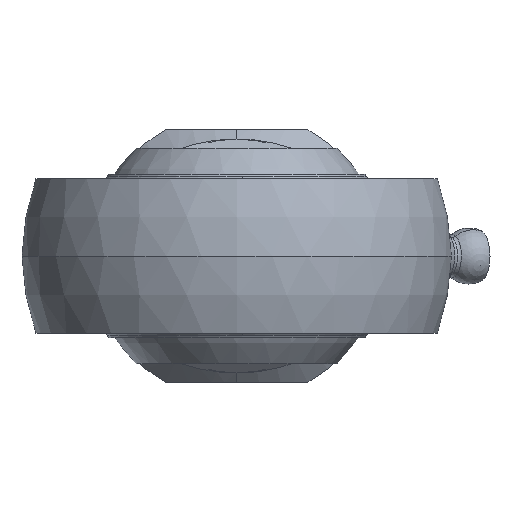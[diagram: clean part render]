
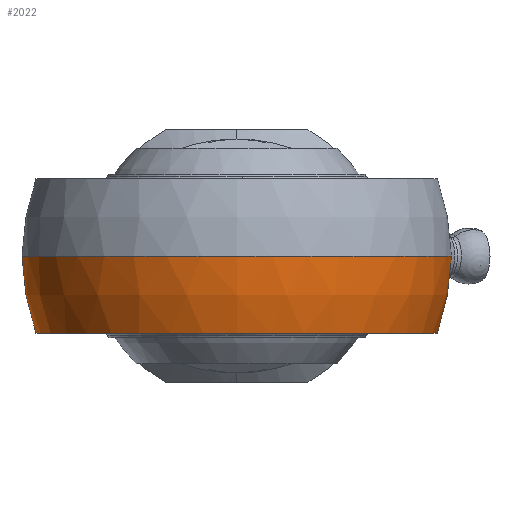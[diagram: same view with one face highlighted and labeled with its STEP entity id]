
A CAD part, left-side view. The second image highlights one B-rep face of the part: STEP entity #2022.
In plain terms, the highlighted spherical face has radius 23 mm.
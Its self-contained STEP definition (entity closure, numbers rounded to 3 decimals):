
#1978 = VERTEX_POINT ( 'NONE', #3636 ) ;
#1979 = ORIENTED_EDGE ( 'NONE', *, *, #2021, .T. ) ;
#2003 = ORIENTED_EDGE ( 'NONE', *, *, #2041, .F. ) ;
#2010 = VERTEX_POINT ( 'NONE', #3800 ) ;
#2021 = EDGE_CURVE ( 'NONE', #1978, #2166, #3787, .T. ) ;
#2022 = ADVANCED_FACE ( 'NONE', ( #3782 ), #3781, .T. ) ;
#2023 = EDGE_CURVE ( 'NONE', #2166, #2010, #3768, .T. ) ;
#2041 = EDGE_CURVE ( 'NONE', #2168, #2010, #3928, .T. ) ;
#2127 = ORIENTED_EDGE ( 'NONE', *, *, #2023, .T. ) ;
#2166 = VERTEX_POINT ( 'NONE', #4348 ) ;
#2168 = VERTEX_POINT ( 'NONE', #4476 ) ;
#2169 = EDGE_CURVE ( 'NONE', #2220, #1978, #4485, .T. ) ;
#2176 = EDGE_CURVE ( 'NONE', #2168, #2220, #4376, .T. ) ;
#2202 = ORIENTED_EDGE ( 'NONE', *, *, #2169, .T. ) ;
#2220 = VERTEX_POINT ( 'NONE', #4469 ) ;
#2221 = EDGE_LOOP ( 'NONE', ( #1979, #2127, #2003, #2223, #2202 ) ) ;
#2223 = ORIENTED_EDGE ( 'NONE', *, *, #2176, .T. ) ;
#3636 = CARTESIAN_POINT ( 'NONE',  ( 9.447, -19.279, -8.25 ) ) ;
#3693 = AXIS2_PLACEMENT_3D ( 'NONE', #3696, #3695, #3723 ) ;
#3695 = DIRECTION ( 'NONE',  ( 0., 0., -1. ) ) ;
#3696 = CARTESIAN_POINT ( 'NONE',  ( 0., 0., 0. ) ) ;
#3723 = DIRECTION ( 'NONE',  ( 0., 1., 0. ) ) ;
#3766 = DIRECTION ( 'NONE',  ( 0., 1., 0. ) ) ;
#3767 = DIRECTION ( 'NONE',  ( 0., 0., -1. ) ) ;
#3768 = CIRCLE ( 'NONE', #3693, 23. ) ;
#3769 = CARTESIAN_POINT ( 'NONE',  ( 0., 0., 0. ) ) ;
#3770 = AXIS2_PLACEMENT_3D ( 'NONE', #3769, #3767, #3766 ) ;
#3781 = SPHERICAL_SURFACE ( 'NONE', #3770, 23. ) ;
#3782 = FACE_OUTER_BOUND ( 'NONE', #2221, .T. ) ;
#3783 = DIRECTION ( 'NONE',  ( 0., 0., 1. ) ) ;
#3784 = DIRECTION ( 'NONE',  ( -1., 0., 0. ) ) ;
#3785 = CARTESIAN_POINT ( 'NONE',  ( 9.447, 0., 0. ) ) ;
#3786 = AXIS2_PLACEMENT_3D ( 'NONE', #3785, #3784, #3783 ) ;
#3787 = CIRCLE ( 'NONE', #3786, 20.97 ) ;
#3800 = CARTESIAN_POINT ( 'NONE',  ( -23., 0., 0. ) ) ;
#3927 = AXIS2_PLACEMENT_3D ( 'NONE', #4028, #4021, #4020 ) ;
#3928 = CIRCLE ( 'NONE', #3927, 23. ) ;
#4020 = DIRECTION ( 'NONE',  ( 1., 0., 0. ) ) ;
#4021 = DIRECTION ( 'NONE',  ( 0., 0., 1. ) ) ;
#4028 = CARTESIAN_POINT ( 'NONE',  ( 0., 0., 0. ) ) ;
#4348 = CARTESIAN_POINT ( 'NONE',  ( 9.447, -20.97, 0. ) ) ;
#4372 = DIRECTION ( 'NONE',  ( 0., 0., 1. ) ) ;
#4373 = DIRECTION ( 'NONE',  ( -1., 0., 0. ) ) ;
#4374 = CARTESIAN_POINT ( 'NONE',  ( 9.447, 0., 0. ) ) ;
#4375 = AXIS2_PLACEMENT_3D ( 'NONE', #4374, #4373, #4372 ) ;
#4376 = CIRCLE ( 'NONE', #4375, 20.97 ) ;
#4469 = CARTESIAN_POINT ( 'NONE',  ( 9.447, 19.279, -8.25 ) ) ;
#4476 = CARTESIAN_POINT ( 'NONE',  ( 9.447, 20.97, 0. ) ) ;
#4482 = DIRECTION ( 'NONE',  ( 0., 0., 1. ) ) ;
#4483 = CARTESIAN_POINT ( 'NONE',  ( 0., 0., -8.25 ) ) ;
#4484 = AXIS2_PLACEMENT_3D ( 'NONE', #4483, #4482, #4496 ) ;
#4485 = CIRCLE ( 'NONE', #4484, 21.469 ) ;
#4496 = DIRECTION ( 'NONE',  ( 1., 0., 0. ) ) ;
